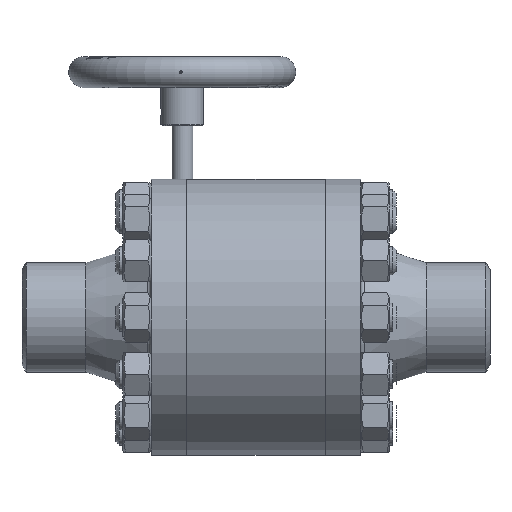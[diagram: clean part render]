
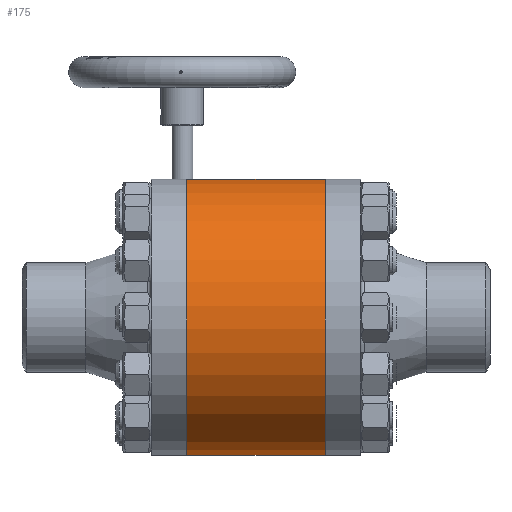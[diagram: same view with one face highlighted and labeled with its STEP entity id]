
A CAD part, front view. The second image highlights one B-rep face of the part: STEP entity #175.
In plain terms, the highlighted cylindrical face has radius 97.5 mm (diameter 195 mm), a partial arc.
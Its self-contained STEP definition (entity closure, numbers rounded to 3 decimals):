
#175=ADVANCED_FACE('',(#20823),#20825,.T.);
#20823=FACE_OUTER_BOUND('',#20824,.T.);
#20824=EDGE_LOOP('',(#59308,#59309,#59310,#59311));
#20825=CYLINDRICAL_SURFACE('',#20826,97.5);
#20826=AXIS2_PLACEMENT_3D('',#20827,#20828,#20829);
#20827=CARTESIAN_POINT('',(49.,0.,0.));
#20828=DIRECTION('',(-1.,-0.,-0.));
#20829=DIRECTION('',(0.,-1.,0.));
#59308=ORIENTED_EDGE('',*,*,#87520,.F.);
#59309=ORIENTED_EDGE('',*,*,#87519,.T.);
#59310=ORIENTED_EDGE('',*,*,#87506,.T.);
#59311=ORIENTED_EDGE('',*,*,#87518,.T.);
#87506=EDGE_CURVE('',#91357,#91355,#91358,.T.);
#87518=EDGE_CURVE('',#91355,#91376,#91378,.T.);
#87519=EDGE_CURVE('',#91372,#91357,#91379,.F.);
#87520=EDGE_CURVE('',#91372,#91376,#91380,.T.);
#91355=VERTEX_POINT('',#97299);
#91357=VERTEX_POINT('',#97305);
#91358=CIRCLE('',#97306,97.5);
#91372=VERTEX_POINT('',#97344);
#91376=VERTEX_POINT('',#97354);
#91378=LINE('',#97360,#97361);
#91379=LINE('',#97363,#97364);
#91380=CIRCLE('',#97366,97.5);
#97299=CARTESIAN_POINT('',(48.8,87.,44.014));
#97305=CARTESIAN_POINT('',(48.8,87.,-44.014));
#97306=AXIS2_PLACEMENT_3D('',#97307,#97308,#97309);
#97307=CARTESIAN_POINT('',(48.8,0.,0.));
#97308=DIRECTION('',(-1.,-0.,0.));
#97309=DIRECTION('',(0.,0.892,-0.451));
#97344=CARTESIAN_POINT('',(-48.8,87.,-44.014));
#97354=CARTESIAN_POINT('',(-48.8,87.,44.014));
#97360=CARTESIAN_POINT('',(48.8,87.,44.014));
#97361=VECTOR('',#97362,1.);
#97362=DIRECTION('',(-1.,0.,0.));
#97363=CARTESIAN_POINT('',(48.8,87.,-44.014));
#97364=VECTOR('',#97365,1.);
#97365=DIRECTION('',(-1.,0.,0.));
#97366=AXIS2_PLACEMENT_3D('',#97367,#97368,#97369);
#97367=CARTESIAN_POINT('',(-48.8,0.,0.));
#97368=DIRECTION('',(-1.,-0.,0.));
#97369=DIRECTION('',(0.,0.892,-0.451));
